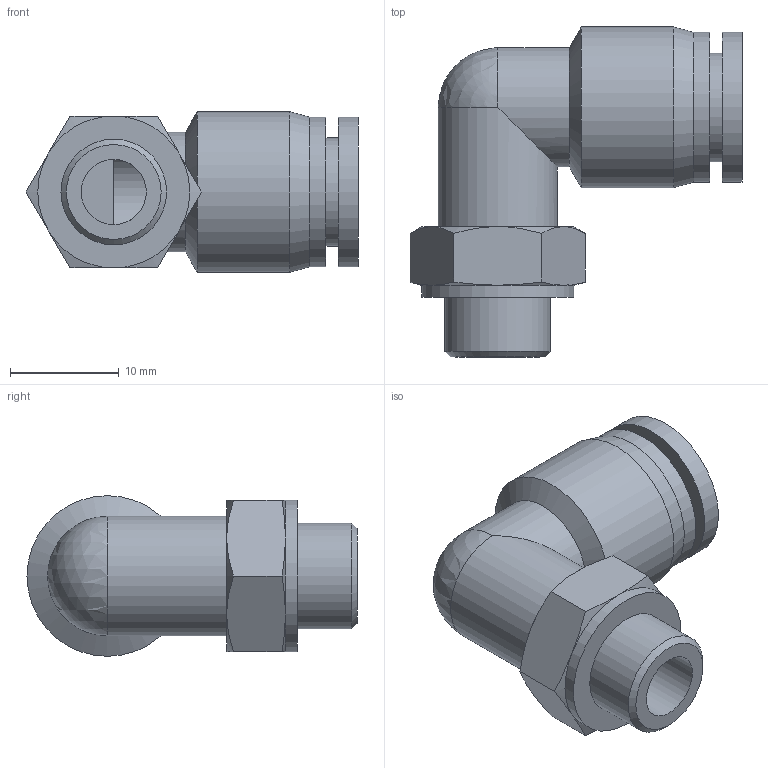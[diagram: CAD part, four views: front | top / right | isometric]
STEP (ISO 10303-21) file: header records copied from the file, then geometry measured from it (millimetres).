
FILE_DESCRIPTION(/* description */ (''),/* implementation_level */ '2;1');
FILE_NAME(/* name */ 'S:\UTecnico\ArchivioUT\Speciali Clienti\Speciali KONFIT\DISEGNI 3D\RP\RP 72\RP721808.stp',/* time_stamp */ '2015-01-28T18:10:58+01:00',/* author */ ('UT5'),/* organization */ (''),/* preprocessor_version */ 'ST-DEVELOPER v15.2',/* originating_system */ 'Autodesk Inventor 2014',/* authorisation */ '');
FILE_SCHEMA (('AUTOMOTIVE_DESIGN { 1 0 10303 214 3 1 1 }'));
Length unit declared in the file: millimetre
Products named in the file (1): RP721808
Bounding box: 30.58 x 30.4 x 14.8 mm (x, y, z)
Volume: 3853.1 mm3; surface area: 3245.3 mm2
Topology: 1 solids, 1 shells, 40 faces, 87 edges, 51 vertices
Faces by surface type: cone 15, plane 14, cylinder 10, sphere 1
Full cylindrical faces by diameter (mm): 6 x1, 8 x1, 9.728 x1, 10 x1, 11 x2, 13.8 x2, 14 x1, 14.8 x1
Entity records: 992 total; most frequent: CARTESIAN_POINT 223, DIRECTION 157, ORIENTED_EDGE 134, AXIS2_PLACEMENT_3D 74, EDGE_CURVE 67, EDGE_LOOP 59, VERTEX_POINT 46, ADVANCED_FACE 40
